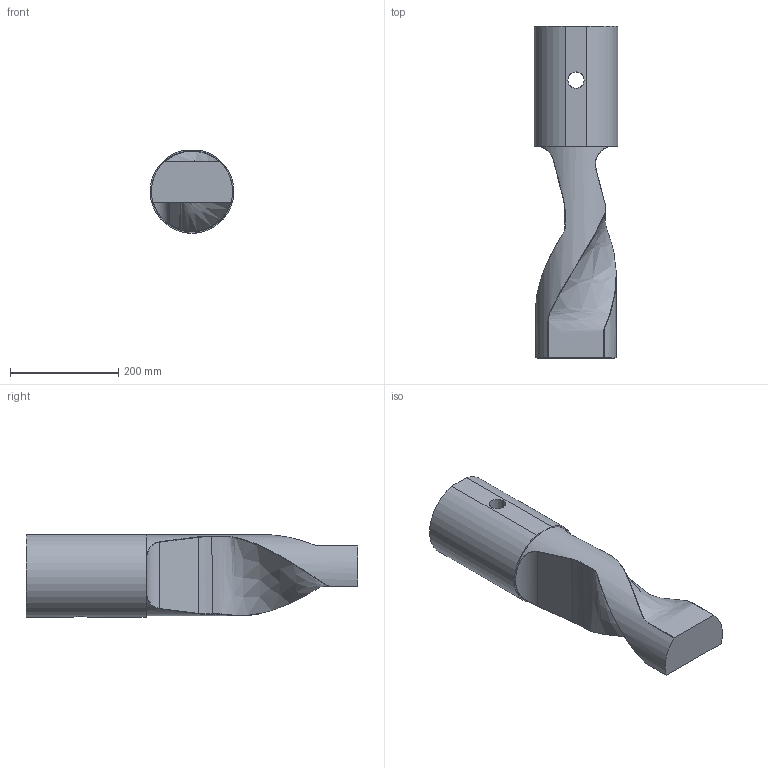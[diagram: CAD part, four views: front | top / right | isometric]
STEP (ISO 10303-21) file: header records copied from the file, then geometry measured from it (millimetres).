
FILE_DESCRIPTION (( 'STEP AP203' ), '1' );
FILE_NAME ('Stem Cam (New).401500-RSBV-18x14-900-03b.STEP', '2024-01-10T14:43:17', ( '' ), ( '' ), 'SwSTEP 2.0', 'SolidWorks 2021', '' );
FILE_SCHEMA (( 'CONFIG_CONTROL_DESIGN' ));
Length unit declared in the file: millimetre
Products named in the file (1): Stem Cam (New).401500-RSBV-18x14-900-03b
Bounding box: 154.86 x 614 x 152.5 mm (x, y, z)
Volume: 7464553.2 mm3; surface area: 376504.6 mm2
Topology: 2 solids, 2 shells, 79 faces, 218 edges, 141 vertices
Faces by surface type: bspline 56, cylinder 13, plane 8, cone 2
Entity records: 13496 total; most frequent: CARTESIAN_POINT 11915, ORIENTED_EDGE 436, EDGE_CURVE 218, B_SPLINE_CURVE_WITH_KNOTS 179, VERTEX_POINT 141, DIRECTION 104, EDGE_LOOP 81, FACE_OUTER_BOUND 79
